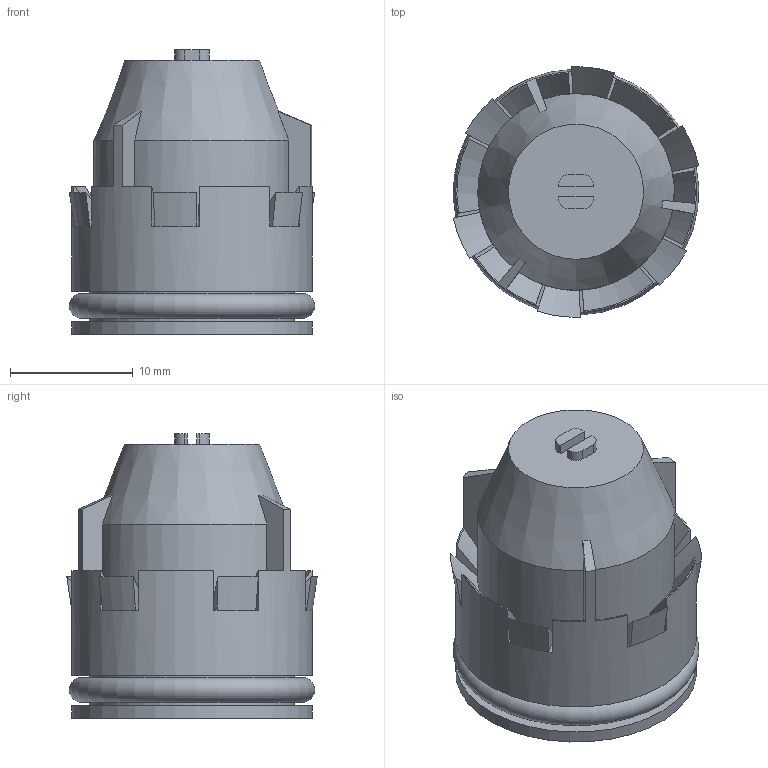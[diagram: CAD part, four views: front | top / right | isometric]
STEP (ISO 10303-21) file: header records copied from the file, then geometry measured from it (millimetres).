
FILE_DESCRIPTION((''),'2;1');
FILE_NAME('C:\Users\duckj\Desktop\10002710.stp','2017-08-02T08:18:50',('duckj'),(''),'Autodesk Inventor 2013','Autodesk Inventor 2013','');
FILE_SCHEMA(('CONFIG_CONTROL_DESIGN'));
Length unit declared in the file: millimetre
Products named in the file (1): 02082017_005
Bounding box: 19.99 x 20.39 x 23.14 mm (x, y, z)
Volume: 4795.2 mm3; surface area: 2529.3 mm2
Topology: 1 solids, 1 shells, 108 faces, 288 edges, 188 vertices
Faces by surface type: plane 67, cone 26, cylinder 12, torus 3
Full cylindrical faces by diameter (mm): 12.7 x1, 16.7 x2, 19.6 x2
Entity records: 3420 total; most frequent: DIRECTION 590, CARTESIAN_POINT 563, ORIENTED_EDGE 544, EDGE_CURVE 272, AXIS2_PLACEMENT_3D 209, VERTEX_POINT 182, VECTOR 172, LINE 172
